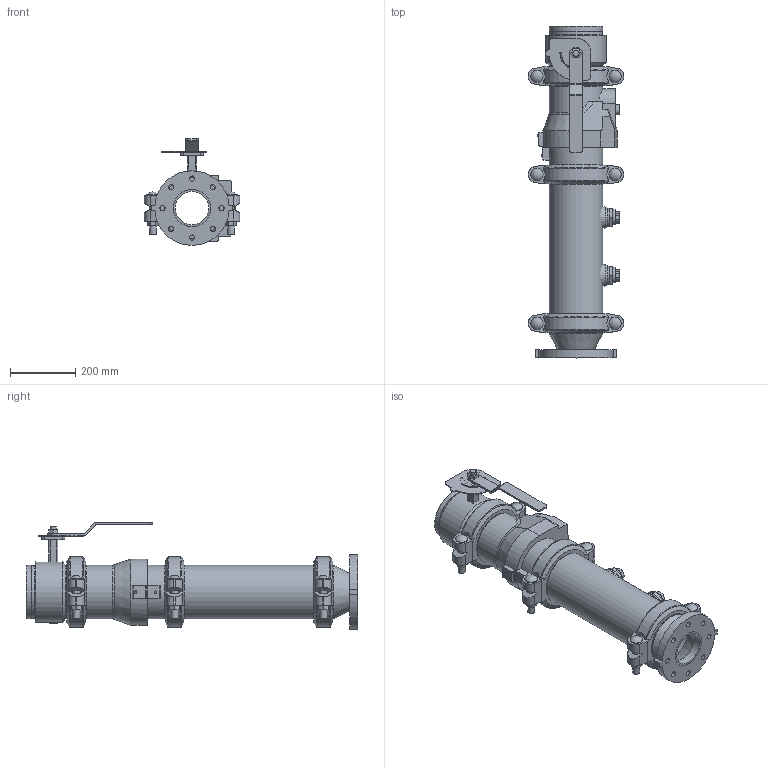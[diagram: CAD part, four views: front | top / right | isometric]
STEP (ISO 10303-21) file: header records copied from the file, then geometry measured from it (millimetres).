
FILE_DESCRIPTION(/* description */ ('VIC DVI PUMP DROP VERT S/390 (OGSxFLG)','CAx-IF Rec.Pracs.---Representation and Presentation of Product Manufacturing Information (PMI)---4.0---2014-10-13'),/* implementation_level */ '2;1');
FILE_NAME(/* name */ 'C:\Users\Vjadhav\AppData\Roaming\Autodesk\ApplicationPlugins\Back Up\Victaulic_IPS_Vertical DVI_PN10_Series 390 (OGSxFLG)\Victaulic_IPS_Vertical DVI_PN10_Series 390 (OGSxFLG)_06.0 (165.1)x04.0 (150x100).stp',/* time_stamp */ '2020-11-09T17:50:55+05:00',/* author */ ('Vjadhav'),/* organization */ ('Victaulic'),/* preprocessor_version */ 'ST-DEVELOPER v17.2',/* originating_system */ 'Autodesk Inventor 2019',/* authorisation */ '');
FILE_SCHEMA (('AP242_MANAGED_MODEL_BASED_3D_ENGINEERING_MIM_LF { 1 0 10303 442 1 1 4 }'));
Length unit declared in the file: inch
Products named in the file (8): 390-06.0 (165.1)x04.0; 741-04.0; 050-06.0 (165.1)x04.0; Pipe-06.0 (165.1); 177N-06.0 (165.1); 761-06.0 (165.1); 716-06.0 (165.1); 923-04.0x0.75
Assembly tree (10 placements, depth 2):
  390-06.0 (165.1)x04.0
    741-04.0
    050-06.0 (165.1)x04.0
    177N-06.0 (165.1)  x3
    Pipe-06.0 (165.1)
    761-06.0 (165.1)
    716-06.0 (165.1)
    923-04.0x0.75  x2
Bounding box: 292.61 x 1019.05 x 327.41 mm (x, y, z)
Volume: 9923685.6 mm3; surface area: 1768801.4 mm2
Topology: 10 solids, 11 shells, 610 faces, 1610 edges, 1075 vertices
Faces by surface type: plane 357, cylinder 208, cone 20, torus 17, sphere 6, bspline 2
Full cylindrical faces by diameter (mm): 4.826 x10, 7.62 x2, 8.636 x4, 16.002 x8, 19.05 x2, 21.209 x6, 22.86 x1, 26.67 x2, 30.48 x1, 37.694 x6, 45.974 x4, 55.118 x1, 55.626 x2, 102.26 x1, 110.084 x1, 114.3 x3, 150.876 x1, 152.4 x3, 153.975 x1, 154.051 x2, 160.782 x7, 165.1 x19, 185.42 x1
Entity records: 12528 total; most frequent: CARTESIAN_POINT 2395, DIRECTION 2081, ORIENTED_EDGE 1908, EDGE_CURVE 954, AXIS2_PLACEMENT_3D 783, VERTEX_POINT 643, LINE 515, VECTOR 515
